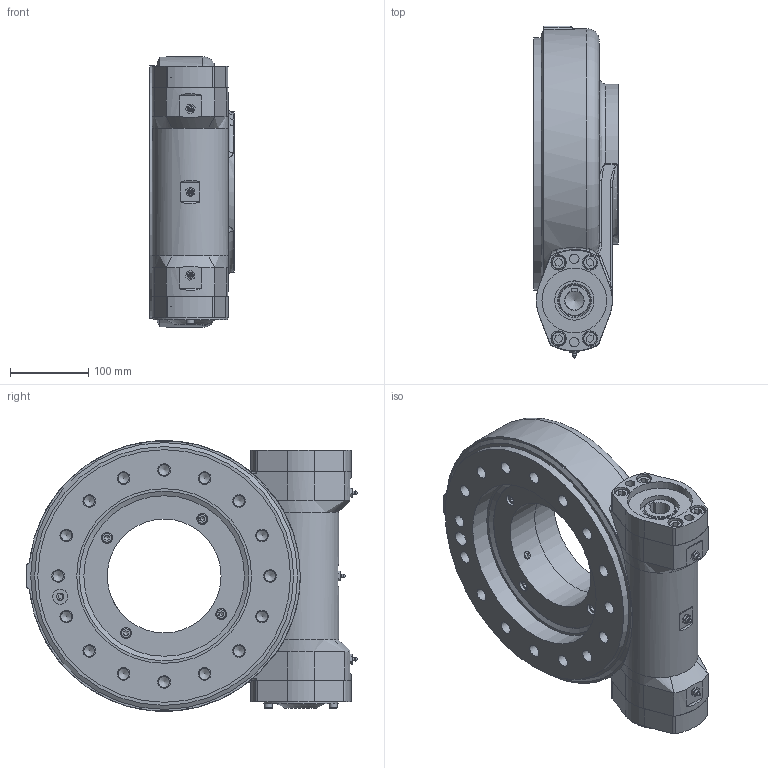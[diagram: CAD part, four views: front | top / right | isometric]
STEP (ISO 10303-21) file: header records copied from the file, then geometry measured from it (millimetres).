
FILE_DESCRIPTION (( 'STEP AP214' ), '1' );
FILE_NAME ('FSE9-61M-25H-R-REV.A.STEP', '2023-01-29T03:29:57', ( '' ), ( '' ), 'SwSTEP 2.0', 'SolidWorks 2018', '' );
FILE_SCHEMA (( 'AUTOMOTIVE_DESIGN' ));
Length unit declared in the file: millimetre
Products named in the file (1): FSE9-61M-25H-R-REV.A
Bounding box: 108 x 422.8 x 344.95 mm (x, y, z)
Volume: 6004284.6 mm3; surface area: 985031.1 mm2
Topology: 18 solids, 18 shells, 801 faces, 1749 edges, 1116 vertices
Faces by surface type: plane 357, cylinder 270, cone 84, bspline 46, torus 39, sphere 5
Full cylindrical faces by diameter (mm): 5 x2, 6 x2, 7 x5, 8 x4, 9 x9, 9.093 x1, 10 x8, 10.2 x8, 12 x10, 13 x12, 14 x35, 16 x31, 18 x24, 19 x1, 19.5 x8, 24 x1, 25.4 x1, 35 x1, 40 x4, 41.908 x2, 47 x2, 50 x4, 57 x1, 66 x2, 68.5 x2, 75 x2, 80 x4, 82.55 x1, 82.8 x2, 90.4 x2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
Entity records: 32062 total; most frequent: CARTESIAN_POINT 7187, DIRECTION 3327, ORIENTED_EDGE 2656, AXIS2_PLACEMENT_3D 1391, EDGE_LOOP 1330, EDGE_CURVE 1328, FACE_OUTER_BOUND 1038, VERTEX_POINT 1024
